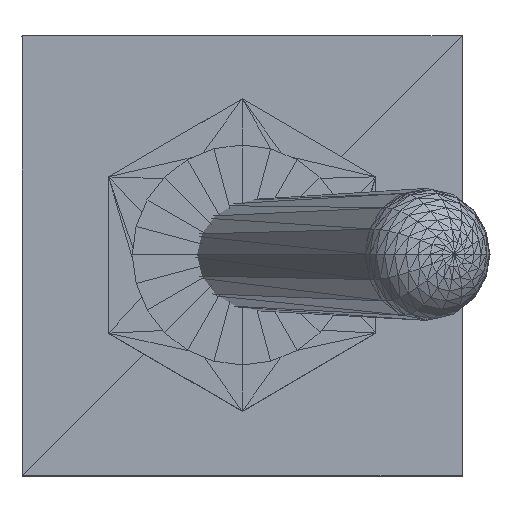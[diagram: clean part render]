
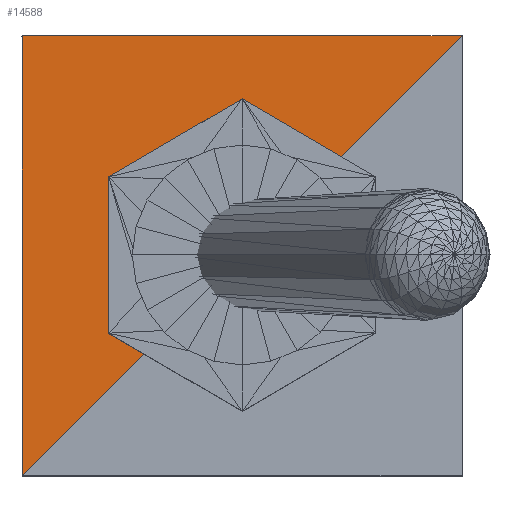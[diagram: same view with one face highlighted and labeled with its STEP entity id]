
A CAD part, top view. The second image highlights one B-rep face of the part: STEP entity #14588.
In plain terms, the highlighted planar face has unit normal (0, 0, 1).
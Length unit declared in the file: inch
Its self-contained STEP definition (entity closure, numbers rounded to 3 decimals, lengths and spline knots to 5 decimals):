
#14413=CARTESIAN_POINT('',(-0.24974,-0.25007,0.65007));
#14414=VERTEX_POINT('',#14413);
#14457=CARTESIAN_POINT('',(0.25014,0.25007,0.64993));
#14458=VERTEX_POINT('',#14457);
#14496=CARTESIAN_POINT('',(-0.24988,0.24993,0.65007));
#14497=VERTEX_POINT('',#14496);
#14505=CARTESIAN_POINT('',(-0.24988,0.24993,0.65007));
#14506=DIRECTION('',(0.,-1.,0.));
#14507=VECTOR('',#14506,0.5);
#14508=LINE('',#14505,#14507);
#14509=EDGE_CURVE('',#14497,#14414,#14508,.T.);
#14535=CARTESIAN_POINT('',(0.25012,0.25007,0.64993));
#14536=DIRECTION('',(-1.,0.,0.));
#14537=VECTOR('',#14536,0.5);
#14538=LINE('',#14535,#14537);
#14539=EDGE_CURVE('',#14458,#14497,#14538,.T.);
#14567=CARTESIAN_POINT('',(0.25012,0.25007,0.64993));
#14568=DIRECTION('',(-0.707,-0.707,0.));
#14569=VECTOR('',#14568,0.70711);
#14570=LINE('',#14567,#14569);
#14571=EDGE_CURVE('',#14458,#14414,#14570,.T.);
#14578=CARTESIAN_POINT('',(-0.24988,0.24993,0.65007));
#14579=DIRECTION('',(0.,0.,1.));
#14580=DIRECTION('',(1.,0.,0.));
#14581=AXIS2_PLACEMENT_3D('',#14578,#14579,#14580);
#14582=PLANE('',#14581);
#14583=ORIENTED_EDGE('',*,*,#14509,.T.);
#14584=ORIENTED_EDGE('',*,*,#14571,.F.);
#14585=ORIENTED_EDGE('',*,*,#14539,.T.);
#14586=EDGE_LOOP('',(#14583,#14584,#14585));
#14587=FACE_BOUND('',#14586,.T.);
#14588=ADVANCED_FACE('',(#14587),#14582,.T.);
